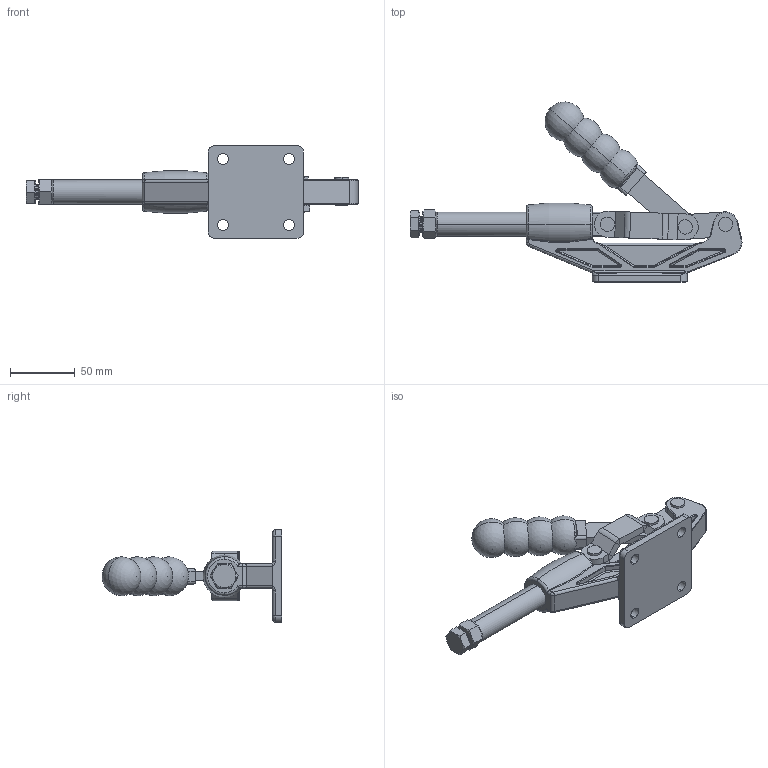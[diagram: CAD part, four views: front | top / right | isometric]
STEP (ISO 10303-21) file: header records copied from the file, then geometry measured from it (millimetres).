
FILE_DESCRIPTION (( 'STEP AP214' ), '1' );
FILE_NAME ('ISK-SL3000.STEP', '2015-07-28T10:02:07', ( '' ), ( '' ), 'SwSTEP 2.0', 'SolidWorks 2015', '' );
FILE_SCHEMA (( 'AUTOMOTIVE_DESIGN' ));
Length unit declared in the file: millimetre
Products named in the file (11): hexagon nut_2_jis_JIS B 1181 Hexagon nut - Class 2 Finished M12 --N; continuous thread hexagon head bolt_a_jis_JIS B 1180 Continuous thread hexagon head bolt A M12 x 40 --S; hexagon nut_3_jis_JIS B 1181 Hexagon nut - Class 3 Finished M8 --N; Bolt_8亊26; Rivet_Φ8×19; Grip; Link; Handle; Arm; Base; ISK-SL3000
Assembly tree (13 placements, depth 2):
  ISK-SL3000
    Base
    Arm
    Handle
    Link  x2
    Grip
    Rivet_Φ8×19
    Bolt_8亊26  x2
    hexagon nut_3_jis_JIS B 1181 Hexagon nut - Class 3 Finished M8 --N  x2
    continuous thread hexagon head bolt_a_jis_JIS B 1180 Continuous thread hexagon head bolt A M12 x 40 --S
    hexagon nut_2_jis_JIS B 1181 Hexagon nut - Class 2 Finished M12 --N
Bounding box: 255.58 x 138.51 x 71.4 mm (x, y, z)
Volume: 229190.7 mm3; surface area: 81459.7 mm2
Topology: 13 solids, 13 shells, 723 faces, 1728 edges, 1005 vertices
Faces by surface type: cylinder 250, plane 181, cone 158, torus 73, sphere 32, bspline 29
Entity records: 20694 total; most frequent: CARTESIAN_POINT 5287, DIRECTION 3368, ORIENTED_EDGE 3026, EDGE_CURVE 1513, AXIS2_PLACEMENT_3D 1394, VERTEX_POINT 899, CIRCLE 764, EDGE_LOOP 680
